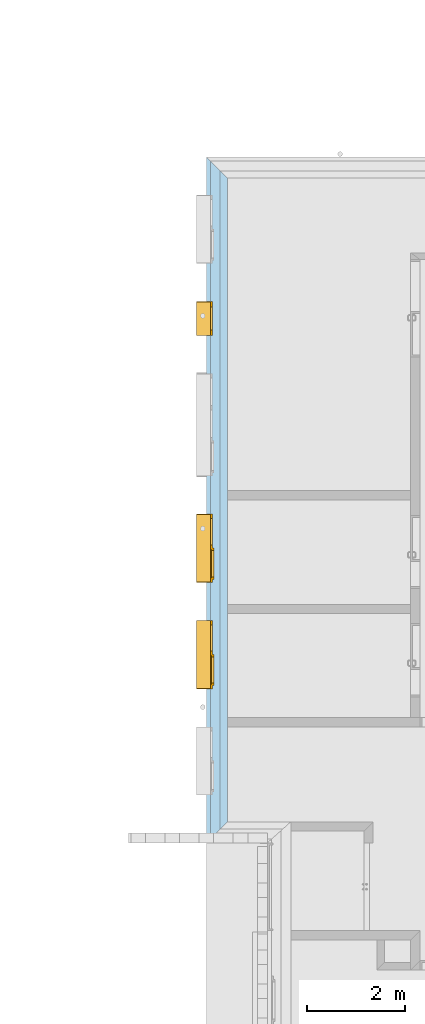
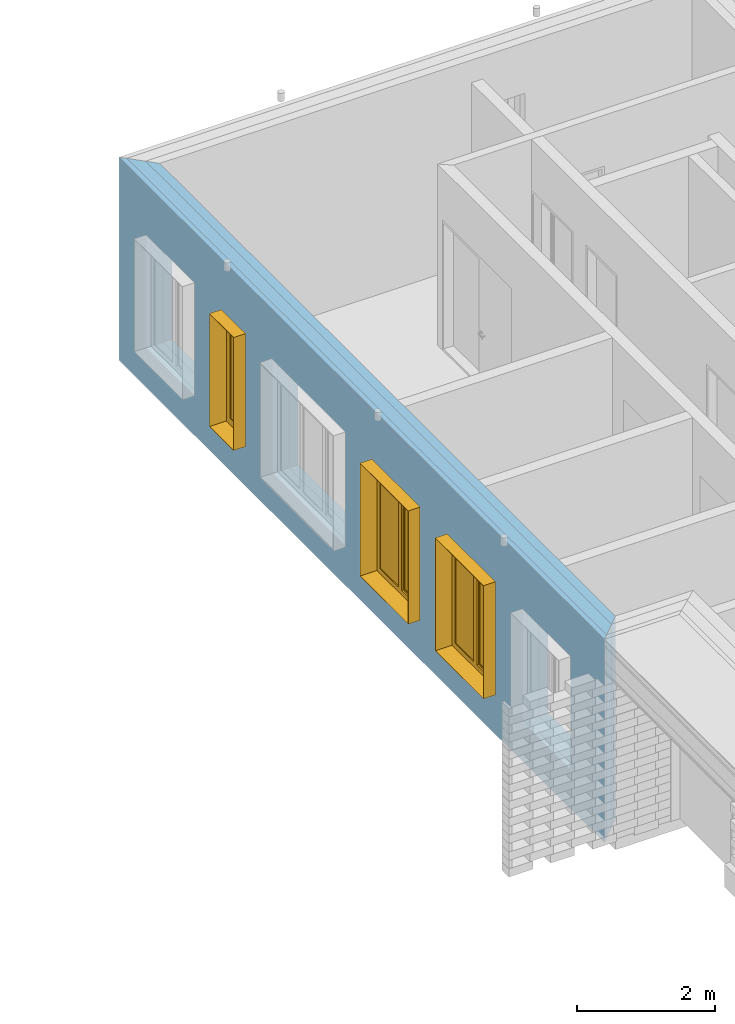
# One storey, part 16 of 62: 3 windows, 6 openings, 1 element without a shape of its own, plus 3 elements that do not belong to this part.
"""IFC2X3 building model written with IfcOpenShell, lengths in millimetres."""

from ifc_helpers import new_model, entity, si_unit, converted_unit, derived_unit, money_unit, direction, frame, origin_with_axes, origin_2d_with_axis, place, context, subcontext, project, spatial, polyline, rectangle, outline, extrude, open_shell, faceted_brep, surface_model, source, transform, mapped, material, type_object, element, fill, aggregate, save


model = new_model("IFC2X3")

# Units and contexts
model_context = context("Model", 3, precision=0.01, world=origin_with_axes(), true_north=direction((0.0, 1.0)))
body_context = subcontext(model_context, "Body", "Model", "MODEL_VIEW")
ifc_project = project(units=[si_unit("LENGTHUNIT", "METRE", prefix="MILLI"), si_unit("AREAUNIT", "SQUARE_METRE"), si_unit("VOLUMEUNIT", "CUBIC_METRE"), converted_unit("PLANEANGLEUNIT", "DEGREE", entity("IfcPlaneAngleMeasure", 0.0174532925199), si_unit("PLANEANGLEUNIT", "RADIAN"), dimensions=[0, 0, 0, 0, 0, 0, 0]), si_unit("SOLIDANGLEUNIT", "STERADIAN"), money_unit("EUR"), converted_unit("TIMEUNIT", "Year", entity("IfcTimeMeasure", 31556926.0), si_unit("TIMEUNIT", "SECOND"), dimensions=[0, 0, 1, 0, 0, 0, 0]), si_unit("MASSUNIT", "GRAM", prefix="KILO"), si_unit("THERMODYNAMICTEMPERATUREUNIT", "DEGREE_CELSIUS"), si_unit("LUMINOUSINTENSITYUNIT", "LUMEN"), si_unit("ENERGYUNIT", "JOULE", prefix="MEGA"), derived_unit("THERMALCONDUCTANCEUNIT", [(si_unit("POWERUNIT", "WATT"), 1), (si_unit("LENGTHUNIT", "METRE"), -1), (si_unit("THERMODYNAMICTEMPERATUREUNIT", "KELVIN"), -1)]), derived_unit("SPECIFICHEATCAPACITYUNIT", [(si_unit("ENERGYUNIT", "JOULE"), 1), (si_unit("MASSUNIT", "GRAM", prefix="KILO"), -1), (si_unit("THERMODYNAMICTEMPERATUREUNIT", "KELVIN"), -1)]), derived_unit("MASSDENSITYUNIT", [(si_unit("MASSUNIT", "GRAM", prefix="KILO"), 1), (si_unit("VOLUMEUNIT", "CUBIC_METRE"), -1)])], contexts=[model_context])

# Site, building, storey
site_placement = place(None, origin_with_axes())
site = spatial("IfcSite", under=ifc_project, at=site_placement, Name="KIRDE 14, ELVA", CompositionType="ELEMENT")
building_placement = place(site_placement, origin_with_axes())
building = spatial("IfcBuilding", under=site, at=building_placement, Name="PPA ja Päästeameti ühishoone", CompositionType="ELEMENT")
storey_placement = place(building_placement, origin_with_axes())
storey = spatial("IfcBuildingStorey", under=building, at=storey_placement, Name="Esimene korrus", CompositionType="ELEMENT", Elevation=0.0)

# Window
window_style_1 = type_object("IfcWindowStyle", Name="Double Window 24", ConstructionType="NOTDEFINED", OperationType="DOUBLE_PANEL_VERTICAL", ParameterTakesPrecedence=False, Sizeable=False)
shared_shape_1 = source(origin_with_axes(), body_context, "Body", "SurfaceModel", [
    faceted_brep([(700.0, -50.0, 0.0), (700.0, -130.0, 0.0), (-700.0, -130.0, 0.0), (-700.0, -50.0, 0.0), (700.0, -50.0, 2000.0), (700.0, -130.0, 2000.0), (-700.0, -130.0, 2000.0), (695.0, -130.0, 5.0), (-695.0, -130.0, 5.0), (-695.0, -130.0, 1995.0), (695.0, -130.0, 1995.0), (-700.0, -50.0, 2000.0), (695.0, -50.0, 5.0), (695.0, -50.0, 1995.0), (-695.0, -50.0, 1995.0), (-695.0, -50.0, 5.0)], [[[0, 1, 2, 3]], [[4, 5, 1, 0]], [[1, 5, 6, 2], [7, 8, 9, 10]], [[3, 2, 6, 11]], [[0, 3, 11, 4], [12, 13, 14, 15]], [[11, 6, 5, 4]], [[15, 8, 7, 12]], [[14, 9, 8, 15]], [[13, 10, 9, 14]], [[12, 7, 10, 13]]]),
    faceted_brep([(700.0, -330.0, 0.0), (695.0, -330.0, 5.0), (695.0, -130.0, 5.0), (700.0, -130.0, 0.0), (700.0, -330.0, 2000.0), (695.0, -330.0, 1995.0), (695.0, -130.0, 1995.0), (700.0, -130.0, 2000.0)], [[[0, 1, 2, 3]], [[0, 4, 5, 1]], [[1, 5, 6, 2]], [[3, 2, 6, 7]], [[4, 0, 3, 7]], [[5, 4, 7, 6]]]),
    faceted_brep([(-700.0, -330.0, 2000.0), (-695.0, -330.0, 1995.0), (-695.0, -130.0, 1995.0), (-700.0, -130.0, 2000.0), (-700.0, -330.0, 0.0), (-695.0, -330.0, 5.0), (-695.0, -130.0, 5.0), (-700.0, -130.0, 0.0)], [[[0, 1, 2, 3]], [[0, 4, 5, 1]], [[1, 5, 6, 2]], [[3, 2, 6, 7]], [[4, 0, 3, 7]], [[5, 4, 7, 6]]]),
    faceted_brep([(-700.0, -330.0, 0.0), (-695.0, -330.0, 5.0), (-695.0, -130.0, 5.0), (-700.0, -130.0, 0.0), (700.0, -330.0, 0.0), (695.0, -330.0, 5.0), (695.0, -130.0, 5.0), (700.0, -130.0, 0.0)], [[[0, 1, 2, 3]], [[0, 4, 5, 1]], [[1, 5, 6, 2]], [[3, 2, 6, 7]], [[4, 0, 3, 7]], [[5, 4, 7, 6]]]),
    faceted_brep([(700.0, -330.0, 2000.0), (695.0, -330.0, 1995.0), (695.0, -130.0, 1995.0), (700.0, -130.0, 2000.0), (-700.0, -330.0, 2000.0), (-695.0, -330.0, 1995.0), (-695.0, -130.0, 1995.0), (-700.0, -130.0, 2000.0)], [[[0, 1, 2, 3]], [[0, 4, 5, 1]], [[1, 5, 6, 2]], [[3, 2, 6, 7]], [[4, 0, 3, 7]], [[5, 4, 7, 6]]]),
    faceted_brep([(635.0, 0.0, 1910.0), (635.0, -25.0, 1910.0), (610.0, -25.0, 1910.0), (610.0, -50.0, 1910.0), (700.0, -50.0, 1910.0), (700.0, 0.0, 1910.0), (635.0, 0.0, 90.0), (635.0, -25.0, 90.0), (610.0, -25.0, 90.0), (610.0, -50.0, 90.0), (700.0, -50.0, 90.0), (700.0, 0.0, 90.0)], [[[0, 1, 2, 3, 4, 5]], [[1, 0, 6, 7]], [[8, 2, 1, 7]], [[2, 8, 9, 3]], [[4, 3, 9, 10]], [[5, 4, 10, 11]], [[6, 0, 5, 11]], [[7, 6, 11, 10, 9, 8]]]),
    faceted_brep([(20.0, -25.0, 1910.0), (-5.0, -25.0, 1910.0), (-5.0, 0.0, 1910.0), (-70.0, 0.0, 1910.0), (-70.0, -50.0, 1910.0), (20.0, -50.0, 1910.0), (20.0, -25.0, 90.0), (-5.0, -25.0, 90.0), (-5.0, 0.0, 90.0), (-70.0, 0.0, 90.0), (-70.0, -50.0, 90.0), (20.0, -50.0, 90.0)], [[[0, 1, 2, 3, 4, 5]], [[1, 0, 6, 7]], [[8, 2, 1, 7]], [[2, 8, 9, 3]], [[9, 10, 4, 3]], [[10, 11, 5, 4]], [[6, 0, 5, 11]], [[7, 6, 11, 10, 9, 8]]]),
    faceted_brep([(20.0, -25.0, 90.0), (-5.0, -25.0, 90.0), (-5.0, 0.0, 90.0), (-70.0, 0.0, 90.0), (-70.0, -50.0, 90.0), (20.0, -50.0, 90.0), (610.0, -25.0, 90.0), (635.0, -25.0, 90.0), (635.0, -25.0, 65.0), (-5.0, -25.0, 65.0), (-5.0, 0.0, 65.0), (635.0, 0.0, 65.0), (635.0, 0.0, 90.0), (700.0, 0.0, 90.0), (700.0, 0.0, 0.0), (-700.0, 0.0, 0.0), (-700.0, 0.0, 90.0), (-610.0, 0.0, 90.0), (-610.0, -50.0, 90.0), (700.0, -50.0, 90.0), (610.0, -50.0, 90.0), (-700.0, -50.0, 90.0), (-700.0, -50.0, 0.0), (700.0, -50.0, 0.0)], [[[0, 1, 2, 3, 4, 5]], [[1, 0, 6, 7, 8, 9]], [[10, 2, 1, 9]], [[11, 12, 13, 14, 15, 16, 17, 3, 2, 10]], [[17, 18, 4, 3]], [[19, 20, 5, 4, 18, 21, 22, 23]], [[6, 0, 5, 20]], [[7, 6, 20, 19, 13, 12]], [[7, 12, 11, 8]], [[11, 10, 9, 8]], [[13, 19, 23, 14]], [[14, 23, 22, 15]], [[15, 22, 21, 16]], [[16, 21, 18, 17]]]),
    faceted_brep([(635.0, 0.0, 1910.0), (635.0, 0.0, 1935.0), (-5.0, 0.0, 1935.0), (-5.0, 0.0, 1910.0), (-70.0, 0.0, 1910.0), (-610.0, 0.0, 1910.0), (-700.0, 0.0, 1910.0), (-700.0, 0.0, 2000.0), (700.0, 0.0, 2000.0), (700.0, 0.0, 1910.0), (635.0, -25.0, 1910.0), (635.0, -25.0, 1935.0), (-5.0, -25.0, 1935.0), (-5.0, -25.0, 1910.0), (20.0, -25.0, 1910.0), (20.0, -50.0, 1910.0), (-70.0, -50.0, 1910.0), (-610.0, -50.0, 1910.0), (-700.0, -50.0, 1910.0), (-700.0, -50.0, 2000.0), (700.0, -50.0, 2000.0), (700.0, -50.0, 1910.0), (610.0, -50.0, 1910.0), (610.0, -25.0, 1910.0)], [[[0, 1, 2, 3, 4, 5, 6, 7, 8, 9]], [[1, 0, 10, 11]], [[2, 1, 11, 12]], [[3, 2, 12, 13]], [[13, 14, 15, 16, 4, 3]], [[4, 16, 17, 5]], [[5, 17, 18, 6]], [[6, 18, 19, 7]], [[7, 19, 20, 8]], [[8, 20, 21, 9]], [[10, 0, 9, 21, 22, 23]], [[14, 13, 12, 11, 10, 23]], [[14, 23, 22, 15]], [[16, 15, 22, 21, 20, 19, 18, 17]]]),
    faceted_brep([(-610.0, -50.0, 90.0), (-700.0, -50.0, 90.0), (-700.0, 0.0, 90.0), (-610.0, 0.0, 90.0), (-610.0, -50.0, 1910.0), (-700.0, -50.0, 1910.0), (-700.0, 0.0, 1910.0), (-610.0, 0.0, 1910.0)], [[[0, 1, 2, 3]], [[0, 4, 5, 1]], [[1, 5, 6, 2]], [[3, 2, 6, 7]], [[4, 0, 3, 7]], [[5, 4, 7, 6]]]),
    faceted_brep([(585.0, -25.0, 1885.0), (635.0, -25.0, 1885.0), (635.0, 25.0, 1885.0), (585.0, 25.0, 1885.0), (585.0, -25.0, 115.0), (635.0, -25.0, 115.0), (635.0, 25.0, 115.0), (585.0, 25.0, 115.0)], [[[0, 1, 2, 3]], [[0, 4, 5, 1]], [[1, 5, 6, 2]], [[3, 2, 6, 7]], [[4, 0, 3, 7]], [[5, 4, 7, 6]]]),
    faceted_brep([(45.0, -25.0, 115.0), (-5.0, -25.0, 115.0), (-5.0, 25.0, 115.0), (45.0, 25.0, 115.0), (45.0, -25.0, 1885.0), (-5.0, -25.0, 1885.0), (-5.0, 25.0, 1885.0), (45.0, 25.0, 1885.0)], [[[0, 1, 2, 3]], [[0, 4, 5, 1]], [[1, 5, 6, 2]], [[3, 2, 6, 7]], [[4, 0, 3, 7]], [[5, 4, 7, 6]]]),
    faceted_brep([(-5.0, -25.0, 65.0), (-5.0, -25.0, 115.0), (-5.0, 25.0, 115.0), (-5.0, 25.0, 65.0), (635.0, -25.0, 65.0), (635.0, -25.0, 115.0), (585.0, -25.0, 115.0), (45.0, -25.0, 115.0), (45.0, 25.0, 115.0), (585.0, 25.0, 115.0), (635.0, 25.0, 115.0), (635.0, 25.0, 65.0)], [[[0, 1, 2, 3]], [[0, 4, 5, 6, 7, 1]], [[1, 7, 8, 2]], [[3, 2, 8, 9, 10, 11]], [[4, 0, 3, 11]], [[5, 4, 11, 10]], [[6, 5, 10, 9]], [[7, 6, 9, 8]]]),
    faceted_brep([(635.0, -25.0, 1935.0), (635.0, -25.0, 1885.0), (635.0, 25.0, 1885.0), (635.0, 25.0, 1935.0), (-5.0, -25.0, 1935.0), (-5.0, -25.0, 1885.0), (45.0, -25.0, 1885.0), (585.0, -25.0, 1885.0), (585.0, 25.0, 1885.0), (45.0, 25.0, 1885.0), (-5.0, 25.0, 1885.0), (-5.0, 25.0, 1935.0)], [[[0, 1, 2, 3]], [[0, 4, 5, 6, 7, 1]], [[1, 7, 8, 2]], [[3, 2, 8, 9, 10, 11]], [[4, 0, 3, 11]], [[5, 4, 11, 10]], [[6, 5, 10, 9]], [[7, 6, 9, 8]]]),
    surface_model("IfcShellBasedSurfaceModel", [(585.0, -10.0, 115.0), (585.0, -10.0, 1885.0), (45.0, -10.0, 1885.0), (45.0, -10.0, 115.0)], [open_shell([[[0, 1, 2, 3]]])]),
    surface_model("IfcShellBasedSurfaceModel", [(585.0, 10.0, 115.0), (45.0, 10.0, 115.0), (45.0, 10.0, 1885.0), (585.0, 10.0, 1885.0)], [open_shell([[[0, 1, 2, 3]]])]),
    surface_model("IfcShellBasedSurfaceModel", [(-70.0, -35.0, 90.0), (-70.0, -35.0, 1910.0), (-610.0, -35.0, 1910.0), (-610.0, -35.0, 90.0)], [open_shell([[[0, 1, 2, 3]]])]),
    surface_model("IfcShellBasedSurfaceModel", [(-70.0, -15.0, 90.0), (-610.0, -15.0, 90.0), (-610.0, -15.0, 1910.0), (-70.0, -15.0, 1910.0)], [open_shell([[[0, 1, 2, 3]]])]),
])
wall_placement = place(storey_placement, frame((6.053596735e-06, 11400.3970033, 0.0), z_axis=(0.0, 0.0, 1.0), x_axis=(-3.88068132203e-10, 1.0, 0.0)))
opening_5_placement = place(wall_placement, frame((5609.48617181, 0.0, 700.0), z_axis=(0.0, 0.0, 1.0), x_axis=(1.0, 0.0, 0.0)))
window_1_placement = place(opening_5_placement, frame((700.0, 0.0, 0.0), z_axis=(0.0, 0.0, 1.0), x_axis=(-1.0, 0.0, 0.0)))
window_1 = element("IfcWindow", 1, at=window_1_placement, inside=storey, type_object=window_style_1, Name="A-05", ObjectType="WINDOW", OverallHeight=2000.0, OverallWidth=1400.0, context=body_context, shape_type="MappedRepresentation", body=[
    mapped(shared_shape_1, transform((699.999999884, -299.999997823, 0.0))),
])

opening_6_placement = place(wall_placement, frame((3429.48617181, 0.0, 700.0), z_axis=(0.0, 0.0, 1.0), x_axis=(1.0, 0.0, 0.0)))
window_2_placement = place(opening_6_placement, frame((700.0, 0.0, 0.0), z_axis=(0.0, 0.0, 1.0), x_axis=(-1.0, 0.0, 0.0)))
window_2 = element("IfcWindow", 2, at=window_2_placement, inside=storey, type_object=window_style_1, Name="A-05", ObjectType="WINDOW", OverallHeight=2000.0, OverallWidth=1400.0, context=body_context, shape_type="MappedRepresentation", body=[
    mapped(shared_shape_1, transform((699.999999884, -299.999998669, 0.0))),
])

window_style_2 = type_object("IfcWindowStyle", Name="Window 24", ConstructionType="NOTDEFINED", OperationType="SINGLE_PANEL", ParameterTakesPrecedence=False, Sizeable=False)
shared_shape_2 = source(origin_with_axes(), body_context, "Body", "SurfaceModel", [
    faceted_brep([(350.0, -50.0, 0.0), (350.0, -130.0, 0.0), (-350.0, -130.0, 0.0), (-350.0, -50.0, 0.0), (350.0, -50.0, 2000.0), (350.0, -130.0, 2000.0), (-350.0, -130.0, 2000.0), (345.0, -130.0, 5.0), (-345.0, -130.0, 5.0), (-345.0, -130.0, 1995.0), (345.0, -130.0, 1995.0), (-350.0, -50.0, 2000.0), (345.0, -50.0, 5.0), (345.0, -50.0, 1995.0), (-345.0, -50.0, 1995.0), (-345.0, -50.0, 5.0)], [[[0, 1, 2, 3]], [[4, 5, 1, 0]], [[1, 5, 6, 2], [7, 8, 9, 10]], [[3, 2, 6, 11]], [[0, 3, 11, 4], [12, 13, 14, 15]], [[11, 6, 5, 4]], [[15, 8, 7, 12]], [[14, 9, 8, 15]], [[13, 10, 9, 14]], [[12, 7, 10, 13]]]),
    faceted_brep([(350.0, -330.0, 0.0), (345.0, -330.0, 5.0), (345.0, -130.0, 5.0), (350.0, -130.0, 0.0), (350.0, -330.0, 2000.0), (345.0, -330.0, 1995.0), (345.0, -130.0, 1995.0), (350.0, -130.0, 2000.0)], [[[0, 1, 2, 3]], [[0, 4, 5, 1]], [[1, 5, 6, 2]], [[3, 2, 6, 7]], [[4, 0, 3, 7]], [[5, 4, 7, 6]]]),
    faceted_brep([(-350.0, -330.0, 2000.0), (-345.0, -330.0, 1995.0), (-345.0, -130.0, 1995.0), (-350.0, -130.0, 2000.0), (-350.0, -330.0, 0.0), (-345.0, -330.0, 5.0), (-345.0, -130.0, 5.0), (-350.0, -130.0, 0.0)], [[[0, 1, 2, 3]], [[0, 4, 5, 1]], [[1, 5, 6, 2]], [[3, 2, 6, 7]], [[4, 0, 3, 7]], [[5, 4, 7, 6]]]),
    faceted_brep([(-350.0, -330.0, 0.0), (-345.0, -330.0, 5.0), (-345.0, -130.0, 5.0), (-350.0, -130.0, 0.0), (350.0, -330.0, 0.0), (345.0, -330.0, 5.0), (345.0, -130.0, 5.0), (350.0, -130.0, 0.0)], [[[0, 1, 2, 3]], [[0, 4, 5, 1]], [[1, 5, 6, 2]], [[3, 2, 6, 7]], [[4, 0, 3, 7]], [[5, 4, 7, 6]]]),
    faceted_brep([(350.0, -330.0, 2000.0), (345.0, -330.0, 1995.0), (345.0, -130.0, 1995.0), (350.0, -130.0, 2000.0), (-350.0, -330.0, 2000.0), (-345.0, -330.0, 1995.0), (-345.0, -130.0, 1995.0), (-350.0, -130.0, 2000.0)], [[[0, 1, 2, 3]], [[0, 4, 5, 1]], [[1, 5, 6, 2]], [[3, 2, 6, 7]], [[4, 0, 3, 7]], [[5, 4, 7, 6]]]),
    faceted_brep([(235.0, -50.0, 1885.0), (350.0, -50.0, 1885.0), (350.0, 0.0, 1885.0), (235.0, 0.0, 1885.0), (235.0, -50.0, 115.0), (350.0, -50.0, 115.0), (350.0, 0.0, 115.0), (235.0, 0.0, 115.0)], [[[0, 1, 2, 3]], [[0, 4, 5, 1]], [[1, 5, 6, 2]], [[3, 2, 6, 7]], [[4, 0, 3, 7]], [[5, 4, 7, 6]]]),
    faceted_brep([(-235.0, -50.0, 115.0), (-350.0, -50.0, 115.0), (-350.0, 0.0, 115.0), (-235.0, 0.0, 115.0), (-235.0, -50.0, 1885.0), (-350.0, -50.0, 1885.0), (-350.0, 0.0, 1885.0), (-235.0, 0.0, 1885.0)], [[[0, 1, 2, 3]], [[0, 4, 5, 1]], [[1, 5, 6, 2]], [[3, 2, 6, 7]], [[4, 0, 3, 7]], [[5, 4, 7, 6]]]),
    faceted_brep([(235.0, -50.0, 115.0), (350.0, -50.0, 115.0), (350.0, 0.0, 115.0), (235.0, 0.0, 115.0), (-235.0, -50.0, 115.0), (-350.0, -50.0, 115.0), (-350.0, -50.0, 0.0), (350.0, -50.0, 0.0), (350.0, 0.0, 0.0), (-350.0, 0.0, 0.0), (-350.0, 0.0, 115.0), (-235.0, 0.0, 115.0)], [[[0, 1, 2, 3]], [[0, 4, 5, 6, 7, 1]], [[1, 7, 8, 2]], [[3, 2, 8, 9, 10, 11]], [[4, 0, 3, 11]], [[5, 4, 11, 10]], [[6, 5, 10, 9]], [[7, 6, 9, 8]]]),
    faceted_brep([(-235.0, -50.0, 1885.0), (-350.0, -50.0, 1885.0), (-350.0, 0.0, 1885.0), (-235.0, 0.0, 1885.0), (235.0, -50.0, 1885.0), (350.0, -50.0, 1885.0), (350.0, -50.0, 2000.0), (-350.0, -50.0, 2000.0), (-350.0, 0.0, 2000.0), (350.0, 0.0, 2000.0), (350.0, 0.0, 1885.0), (235.0, 0.0, 1885.0)], [[[0, 1, 2, 3]], [[0, 4, 5, 6, 7, 1]], [[1, 7, 8, 2]], [[3, 2, 8, 9, 10, 11]], [[4, 0, 3, 11]], [[5, 4, 11, 10]], [[6, 5, 10, 9]], [[7, 6, 9, 8]]]),
    surface_model("IfcShellBasedSurfaceModel", [(235.0, -35.0, 115.0), (235.0, -35.0, 1885.0), (-235.0, -35.0, 1885.0), (-235.0, -35.0, 115.0)], [open_shell([[[0, 1, 2, 3]]])]),
    surface_model("IfcShellBasedSurfaceModel", [(235.0, -15.0, 115.0), (-235.0, -15.0, 115.0), (-235.0, -15.0, 1885.0), (235.0, -15.0, 1885.0)], [open_shell([[[0, 1, 2, 3]]])]),
])
opening_4_placement = place(wall_placement, frame((10319.4861718, 0.0, 700.0), z_axis=(0.0, 0.0, 1.0), x_axis=(1.0, 0.0, 0.0)))
window_3_placement = place(opening_4_placement, frame((350.0, 0.0, 0.0), z_axis=(0.0, 0.0, 1.0), x_axis=(-1.0, 0.0, 0.0)))
window_3 = element("IfcWindow", 3, at=window_3_placement, inside=storey, type_object=window_style_2, Name="A-01", ObjectType="WINDOW", OverallHeight=2000.0, OverallWidth=700.0, context=body_context, shape_type="MappedRepresentation", body=[
    mapped(shared_shape_2, transform((349.999999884, -299.999995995, 0.0))),
])

# Wall, openings
wall_type = type_object("IfcWallType", Name="VS-01 430", PredefinedType="NOTDEFINED")
wall = element("IfcWall", 4, at=wall_placement, inside=storey, type_object=wall_type, Name="VS-01")
opening_1_placement = place(wall_placement, frame((1249.48617181, 0.0, 700.0), z_axis=(0.0, 0.0, 1.0), x_axis=(1.0, 0.0, 0.0)))
element("IfcOpeningElement", 5, at=opening_1_placement, cuts=wall, Name="A-05", context=body_context, shape_type="SweptSolid", body=[
    extrude(rectangle(XDim=1400.0, YDim=2000.0, at=origin_2d_with_axis()), frame((1.35823796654e-07, 349.999999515, 1000.0), z_axis=(-3.88068310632e-10, -1.0, 0.0), x_axis=(1.0, -3.880683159e-10, 0.0)), (0.0, 0.0, 1.0), 780.0),
    extrude(rectangle(XDim=1400.0, YDim=2000.0, at=origin_2d_with_axis()), frame((1.35823796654e-07, 349.999999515, 1000.0), z_axis=(3.88068290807e-10, 1.0, 0.0), x_axis=(1.0, -3.880683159e-10, 0.0)), (0.0, 0.0, 1.0), 510.0),
    extrude(rectangle(XDim=1400.0, YDim=2000.0, at=origin_2d_with_axis()), frame((1.66869185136e-07, 429.999999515, 1000.0), z_axis=(3.88068290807e-10, 1.0, 0.0), x_axis=(1.0, -3.880683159e-10, 0.0)), (0.0, 0.0, 1.0), 510.0),
])
opening_2_placement = place(wall_placement, frame((12149.4861718, 0.0, 700.0), z_axis=(0.0, 0.0, 1.0), x_axis=(1.0, 0.0, 0.0)))
element("IfcOpeningElement", 6, at=opening_2_placement, cuts=wall, Name="A-05", context=body_context, shape_type="SweptSolid", body=[
    extrude(rectangle(XDim=1400.0, YDim=2000.0, at=origin_2d_with_axis()), frame((1.35823796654e-07, 349.999995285, 1000.0), z_axis=(-3.88068310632e-10, -1.0, 0.0), x_axis=(1.0, -3.880683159e-10, 0.0)), (0.0, 0.0, 1.0), 780.0),
    extrude(rectangle(XDim=1400.0, YDim=2000.0, at=origin_2d_with_axis()), frame((1.35823796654e-07, 349.999995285, 1000.0), z_axis=(3.88068290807e-10, 1.0, 0.0), x_axis=(1.0, -3.880683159e-10, 0.0)), (0.0, 0.0, 1.0), 510.0),
    extrude(rectangle(XDim=1400.0, YDim=2000.0, at=origin_2d_with_axis()), frame((1.66870961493e-07, 429.999995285, 1000.0), z_axis=(3.88068290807e-10, 1.0, 0.0), x_axis=(1.0, -3.880683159e-10, 0.0)), (0.0, 0.0, 1.0), 510.0),
])
opening_3_placement = place(wall_placement, frame((8139.48617181, 0.0, 700.0), z_axis=(0.0, 0.0, 1.0), x_axis=(1.0, 0.0, 0.0)))
element("IfcOpeningElement", 7, at=opening_3_placement, cuts=wall, Name="A-09", context=body_context, shape_type="SweptSolid", body=[
    extrude(rectangle(XDim=2100.0, YDim=2000.0, at=origin_2d_with_axis()), frame((1.35823796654e-07, 349.999996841, 1000.0), z_axis=(-3.88068304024e-10, -1.0, 0.0), x_axis=(1.0, -3.880683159e-10, 0.0)), (0.0, 0.0, 1.0), 780.0),
    extrude(rectangle(XDim=2100.0, YDim=2000.0, at=origin_2d_with_axis()), frame((1.35823796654e-07, 349.999996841, 1000.0), z_axis=(3.88068343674e-10, 1.0, 0.0), x_axis=(1.0, -3.880683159e-10, 0.0)), (0.0, 0.0, 1.0), 510.0),
    extrude(rectangle(XDim=2140.0, YDim=2040.0, at=origin_2d_with_axis()), frame((1.66870961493e-07, 429.999996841, 1000.0), z_axis=(3.88068339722e-10, 1.0, 0.0), x_axis=(1.0, -3.880683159e-10, 0.0)), (0.0, 0.0, 1.0), 510.0),
])
opening_4 = element("IfcOpeningElement", 8, at=opening_4_placement, cuts=wall, Name="A-01", context=body_context, shape_type="SweptSolid", body=[
    extrude(rectangle(XDim=700.0, YDim=2000.0, at=origin_2d_with_axis()), frame((1.35823796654e-07, 349.999995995, 1000.0), z_axis=(-3.88068290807e-10, -1.0, 0.0), x_axis=(1.0, -3.880683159e-10, 0.0)), (0.0, 0.0, 1.0), 780.0),
    extrude(rectangle(XDim=700.0, YDim=2000.0, at=origin_2d_with_axis()), frame((1.35823796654e-07, 349.999995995, 1000.0), z_axis=(3.88068330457e-10, 1.0, 0.0), x_axis=(1.0, -3.880683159e-10, 0.0)), (0.0, 0.0, 1.0), 510.0),
    extrude(rectangle(XDim=700.0, YDim=2000.0, at=origin_2d_with_axis()), frame((1.66870961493e-07, 429.999995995, 1000.0), z_axis=(3.88068330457e-10, 1.0, 0.0), x_axis=(1.0, -3.880683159e-10, 0.0)), (0.0, 0.0, 1.0), 510.0),
])

fill(opening_4, window_3)

# Opening
opening_5 = element("IfcOpeningElement", 9, at=opening_5_placement, cuts=wall, Name="A-05", context=body_context, shape_type="SweptSolid", body=[
    extrude(rectangle(XDim=1400.0, YDim=2000.0, at=origin_2d_with_axis()), frame((1.35823796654e-07, 349.999997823, 1000.0), z_axis=(-3.88068310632e-10, -1.0, 0.0), x_axis=(1.0, -3.880683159e-10, 0.0)), (0.0, 0.0, 1.0), 780.0),
    extrude(rectangle(XDim=1400.0, YDim=2000.0, at=origin_2d_with_axis()), frame((1.35823796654e-07, 349.999997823, 1000.0), z_axis=(3.88068350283e-10, 1.0, 0.0), x_axis=(1.0, -3.880683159e-10, 0.0)), (0.0, 0.0, 1.0), 510.0),
    extrude(rectangle(XDim=1400.0, YDim=2000.0, at=origin_2d_with_axis()), frame((1.66870961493e-07, 429.999997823, 1000.0), z_axis=(3.88068350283e-10, 1.0, 0.0), x_axis=(1.0, -3.880683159e-10, 0.0)), (0.0, 0.0, 1.0), 510.0),
])

fill(opening_5, window_1)

opening_6 = element("IfcOpeningElement", 10, at=opening_6_placement, cuts=wall, Name="A-05", context=body_context, shape_type="SweptSolid", body=[
    extrude(rectangle(XDim=1400.0, YDim=2000.0, at=origin_2d_with_axis()), frame((1.35823796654e-07, 349.999998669, 1000.0), z_axis=(-3.88068310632e-10, -1.0, 0.0), x_axis=(1.0, -3.880683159e-10, 0.0)), (0.0, 0.0, 1.0), 780.0),
    extrude(rectangle(XDim=1400.0, YDim=2000.0, at=origin_2d_with_axis()), frame((1.35823796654e-07, 349.999998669, 1000.0), z_axis=(3.88068350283e-10, 1.0, 0.0), x_axis=(1.0, -3.880683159e-10, 0.0)), (0.0, 0.0, 1.0), 510.0),
    extrude(rectangle(XDim=1400.0, YDim=2000.0, at=origin_2d_with_axis()), frame((1.66869185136e-07, 429.999998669, 1000.0), z_axis=(3.88068350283e-10, 1.0, 0.0), x_axis=(1.0, -3.880683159e-10, 0.0)), (0.0, 0.0, 1.0), 510.0),
])

fill(opening_6, window_2)

# Building element part
ifc_material_1 = material(Name="Raudbetoon Paneelid (2)")
building_element_part_1_placement = place(wall_placement, origin_with_axes())
building_element_part_1 = element("IfcBuildingElementPart", 11, at=building_element_part_1_placement, material=ifc_material_1, Name="Raudbetoon Paneelid (2)", context=body_context, shape_type="SweptSolid", body=[
    extrude(outline(polyline([(0.0, 0.0), (13199.419729, 0.0), (13349.419729, 150.0), (-149.999955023, 150.0), (0.0, 0.0)])), origin_with_axes(), (0.0, 0.0, 1.0), 3600.0),
])

ifc_material_2 = material(Name="Vahtpolüstüreen (4)")
building_element_part_2_placement = place(wall_placement, origin_with_axes())
building_element_part_2 = element("IfcBuildingElementPart", 12, at=building_element_part_2_placement, material=ifc_material_2, Name="Vahtpolüstüreen (4)", context=body_context, shape_type="SweptSolid", body=[
    extrude(outline(polyline([(-149.999955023, 150.0), (13349.419729, 150.0), (13549.4197289, 350.0), (-349.999895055, 350.0), (-149.999955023, 150.0)])), origin_with_axes(), (0.0, 0.0, 1.0), 3600.0),
])

building_element_part_3_placement = place(wall_placement, origin_with_axes())
building_element_part_3 = element("IfcBuildingElementPart", 13, at=building_element_part_3_placement, material=ifc_material_1, Name="Raudbetoon Paneelid (2)", context=body_context, shape_type="SweptSolid", body=[
    extrude(outline(polyline([(-349.999895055, 350.0), (13549.4197289, 350.0), (13629.4197289, 430.0), (-429.999871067, 430.0), (-349.999895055, 350.0)])), origin_with_axes(), (0.0, 0.0, 1.0), 3600.0),
])

aggregate(wall, [building_element_part_1, building_element_part_2, building_element_part_3])

save(model, "model.ifc")
